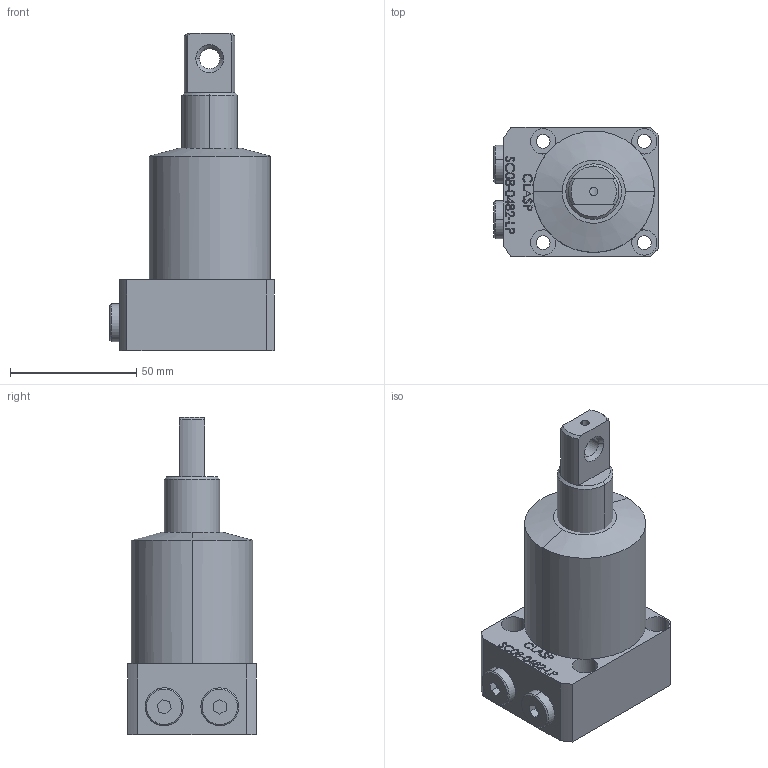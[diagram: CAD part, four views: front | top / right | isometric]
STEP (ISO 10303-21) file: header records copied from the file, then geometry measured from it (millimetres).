
FILE_DESCRIPTION (( 'STEP AP203' ), '1' );
FILE_NAME ('SC08-0482-LP.STEP', '2022-07-08T17:01:46', ( '' ), ( '' ), 'SwSTEP 2.0', 'SolidWorks 2017', '' );
FILE_SCHEMA (( 'CONFIG_CONTROL_DESIGN' ));
Length unit declared in the file: millimetre
Products named in the file (4): SC-08-0482-LP BODY; SC-08-0482-LP-Piston; SC-08-0482-LP-05 plug; SC08-0482-LP
Assembly tree (4 placements, depth 2):
  SC08-0482-LP
    SC-08-0482-LP BODY
    SC-08-0482-LP-Piston
    SC-08-0482-LP-05 plug  x2
Bounding box: 65 x 51 x 125.5 mm (x, y, z)
Volume: 195663.6 mm3; surface area: 30741.1 mm2
Topology: 4 solids, 4 shells, 337 faces, 842 edges, 552 vertices
Faces by surface type: plane 151, bspline 118, cylinder 50, cone 18
Entity records: 16752 total; most frequent: CARTESIAN_POINT 9263, ORIENTED_EDGE 1620, DIRECTION 1116, EDGE_CURVE 810, VERTEX_POINT 532, LINE 442, VECTOR 442, EDGE_LOOP 372
